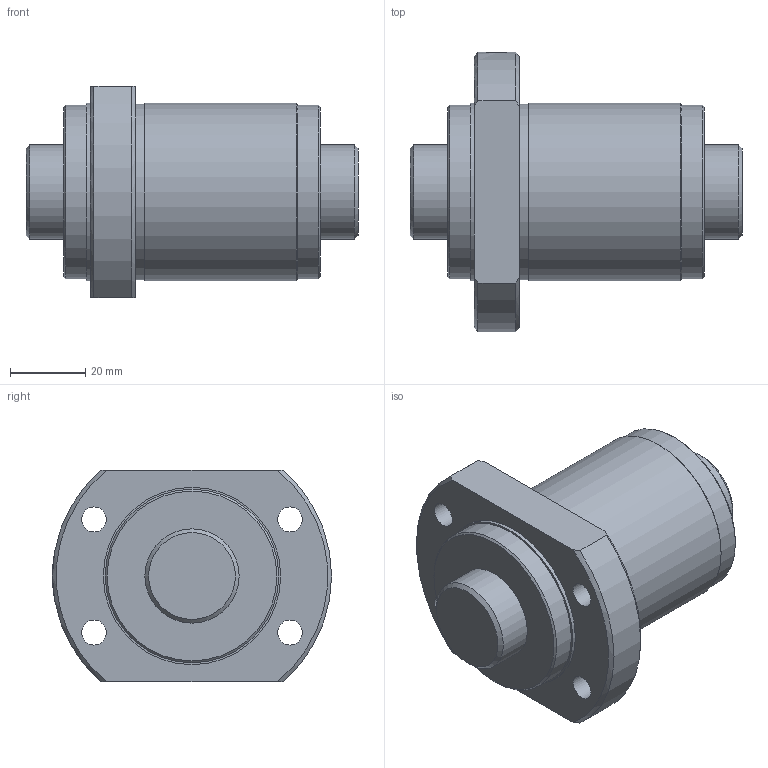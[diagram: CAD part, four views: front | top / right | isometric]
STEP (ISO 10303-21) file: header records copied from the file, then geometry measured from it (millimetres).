
FILE_DESCRIPTION(/* description */ ('STEP AP203'),/* implementation_level */ '2;1');
FILE_NAME(/* name */ 'SBK2525-3.6RRG0+88LC0(0000)',/* time_stamp */ '2024-05-28T11:19:54+02:00',/* author */ ('License CC BY-ND 4.0'),/* organization */ ('CADENAS'),/* preprocessor_version */ 'ST-DEVELOPER v19.3',/* originating_system */ 'PARTsolutions',/* authorisation */ ' ');
FILE_SCHEMA (('CONFIG_CONTROL_DESIGN'));
Length unit declared in the file: millimetre
Products named in the file (3): SBK2525-3.6RRG0+88LC0(0000); NRR000SBK 2525-3.60Shaft; NRR000SBK 2525-3.6Nut
Assembly tree (2 placements, depth 2):
  SBK2525-3.6RRG0+88LC0(0000)
    NRR000SBK 2525-3.60Shaft
    NRR000SBK 2525-3.6Nut
Bounding box: 88 x 74 x 56 mm (x, y, z)
Volume: 148270.5 mm3; surface area: 31238.3 mm2
Topology: 2 solids, 2 shells, 36 faces, 75 edges, 48 vertices
Faces by surface type: cylinder 14, plane 11, cone 11
Full cylindrical faces by diameter (mm): 4.917 x1, 6.6 x4, 25 x2, 46 x2, 46.6 x1, 47 x2
Entity records: 970 total; most frequent: CARTESIAN_POINT 174, DIRECTION 160, ORIENTED_EDGE 108, AXIS2_PLACEMENT_3D 76, FACE_BOUND 71, EDGE_LOOP 70, EDGE_CURVE 54, VERTEX_POINT 47
